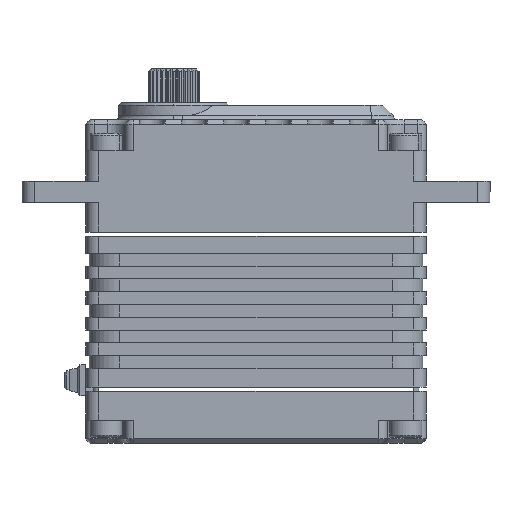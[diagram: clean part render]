
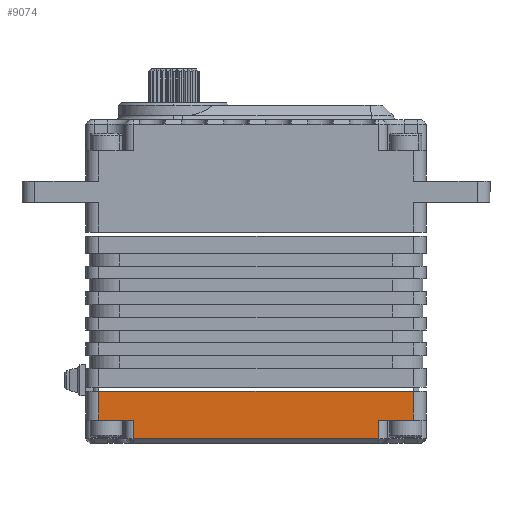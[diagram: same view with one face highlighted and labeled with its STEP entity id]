
A CAD part, front view. The second image highlights one B-rep face of the part: STEP entity #9074.
In plain terms, the highlighted planar face has unit normal (0, -1, 0).
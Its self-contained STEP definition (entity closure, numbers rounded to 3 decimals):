
#170 = EDGE_CURVE ( 'NONE', #19961, #2709, #23812, .T. ) ;
#1111 = EDGE_CURVE ( 'NONE', #18077, #16122, #1819, .T. ) ;
#1819 = LINE ( 'NONE', #8030, #25886 ) ;
#1919 = VECTOR ( 'NONE', #5624, 1000. ) ;
#2183 = EDGE_LOOP ( 'NONE', ( #29779, #5817, #28507, #29450, #8237, #29316, #24503, #6789 ) ) ;
#2709 = VERTEX_POINT ( 'NONE', #5506 ) ;
#2941 = DIRECTION ( 'NONE',  ( 0., -1., 0. ) ) ;
#3034 = EDGE_CURVE ( 'NONE', #27225, #19961, #26680, .T. ) ;
#3230 = PLANE ( 'NONE',  #5501 ) ;
#3235 = VECTOR ( 'NONE', #20232, 1000. ) ;
#4608 = CARTESIAN_POINT ( 'NONE',  ( 9.3, -28.821, -17.385 ) ) ;
#5362 = FACE_OUTER_BOUND ( 'NONE', #2183, .T. ) ;
#5501 = AXIS2_PLACEMENT_3D ( 'NONE', #29000, #2941, #14965 ) ;
#5506 = CARTESIAN_POINT ( 'NONE',  ( 13.4, -28.821, -14.75 ) ) ;
#5624 = DIRECTION ( 'NONE',  ( 1., 0., 0. ) ) ;
#5817 = ORIENTED_EDGE ( 'NONE', *, *, #1111, .T. ) ;
#6361 = CARTESIAN_POINT ( 'NONE',  ( -19.5, -28.821, -17.385 ) ) ;
#6789 = ORIENTED_EDGE ( 'NONE', *, *, #30142, .T. ) ;
#7149 = CARTESIAN_POINT ( 'NONE',  ( -23.6, -28.821, -11.35 ) ) ;
#7204 = EDGE_CURVE ( 'NONE', #10813, #18077, #10730, .T. ) ;
#7406 = CARTESIAN_POINT ( 'NONE',  ( -23.6, -28.821, -14.75 ) ) ;
#8030 = CARTESIAN_POINT ( 'NONE',  ( 15.25, -28.821, -14.75 ) ) ;
#8093 = EDGE_CURVE ( 'NONE', #2709, #23822, #19639, .T. ) ;
#8237 = ORIENTED_EDGE ( 'NONE', *, *, #3034, .T. ) ;
#8642 = CARTESIAN_POINT ( 'NONE',  ( -19.5, -28.821, -16.95 ) ) ;
#9074 = ADVANCED_FACE ( 'NONE', ( #5362 ), #3230, .T. ) ;
#9534 = VECTOR ( 'NONE', #26774, 1000. ) ;
#10237 = DIRECTION ( 'NONE',  ( -1., 0., 0. ) ) ;
#10356 = DIRECTION ( 'NONE',  ( 1., 0., 0. ) ) ;
#10512 = VECTOR ( 'NONE', #22665, 1000. ) ;
#10667 = CARTESIAN_POINT ( 'NONE',  ( 9.3, -28.821, -16.95 ) ) ;
#10730 = LINE ( 'NONE', #11327, #25345 ) ;
#10813 = VERTEX_POINT ( 'NONE', #7149 ) ;
#11127 = VERTEX_POINT ( 'NONE', #8642 ) ;
#11327 = CARTESIAN_POINT ( 'NONE',  ( -23.6, -28.821, -17.385 ) ) ;
#11485 = VECTOR ( 'NONE', #10237, 1000. ) ;
#13279 = CARTESIAN_POINT ( 'NONE',  ( 13.4, -28.821, -11.35 ) ) ;
#13463 = DIRECTION ( 'NONE',  ( 0., 0., -1. ) ) ;
#13753 = EDGE_CURVE ( 'NONE', #11127, #27225, #17178, .T. ) ;
#14965 = DIRECTION ( 'NONE',  ( 0., 0., -1. ) ) ;
#16122 = VERTEX_POINT ( 'NONE', #23291 ) ;
#17178 = LINE ( 'NONE', #26878, #9534 ) ;
#17545 = VECTOR ( 'NONE', #18349, 1000. ) ;
#18077 = VERTEX_POINT ( 'NONE', #7406 ) ;
#18349 = DIRECTION ( 'NONE',  ( 0., 0., 1. ) ) ;
#19639 = LINE ( 'NONE', #20028, #3235 ) ;
#19665 = CARTESIAN_POINT ( 'NONE',  ( 15.25, -28.821, -14.75 ) ) ;
#19961 = VERTEX_POINT ( 'NONE', #22452 ) ;
#20028 = CARTESIAN_POINT ( 'NONE',  ( 13.4, -28.821, -17.385 ) ) ;
#20232 = DIRECTION ( 'NONE',  ( 0., 0., 1. ) ) ;
#21592 = EDGE_CURVE ( 'NONE', #16122, #11127, #24020, .T. ) ;
#22405 = LINE ( 'NONE', #23935, #11485 ) ;
#22452 = CARTESIAN_POINT ( 'NONE',  ( 9.3, -28.821, -14.75 ) ) ;
#22665 = DIRECTION ( 'NONE',  ( 0., 0., -1. ) ) ;
#23291 = CARTESIAN_POINT ( 'NONE',  ( -19.5, -28.821, -14.75 ) ) ;
#23812 = LINE ( 'NONE', #19665, #1919 ) ;
#23822 = VERTEX_POINT ( 'NONE', #13279 ) ;
#23935 = CARTESIAN_POINT ( 'NONE',  ( 15.25, -28.821, -11.35 ) ) ;
#24020 = LINE ( 'NONE', #6361, #10512 ) ;
#24503 = ORIENTED_EDGE ( 'NONE', *, *, #8093, .T. ) ;
#25345 = VECTOR ( 'NONE', #13463, 1000. ) ;
#25886 = VECTOR ( 'NONE', #10356, 1000. ) ;
#26680 = LINE ( 'NONE', #4608, #17545 ) ;
#26774 = DIRECTION ( 'NONE',  ( 1., 0., 0. ) ) ;
#26878 = CARTESIAN_POINT ( 'NONE',  ( -26.77, -28.821, -16.95 ) ) ;
#27225 = VERTEX_POINT ( 'NONE', #10667 ) ;
#28507 = ORIENTED_EDGE ( 'NONE', *, *, #21592, .T. ) ;
#29000 = CARTESIAN_POINT ( 'NONE',  ( 15.25, -28.821, -17.385 ) ) ;
#29316 = ORIENTED_EDGE ( 'NONE', *, *, #170, .T. ) ;
#29450 = ORIENTED_EDGE ( 'NONE', *, *, #13753, .T. ) ;
#29779 = ORIENTED_EDGE ( 'NONE', *, *, #7204, .T. ) ;
#30142 = EDGE_CURVE ( 'NONE', #23822, #10813, #22405, .T. ) ;
